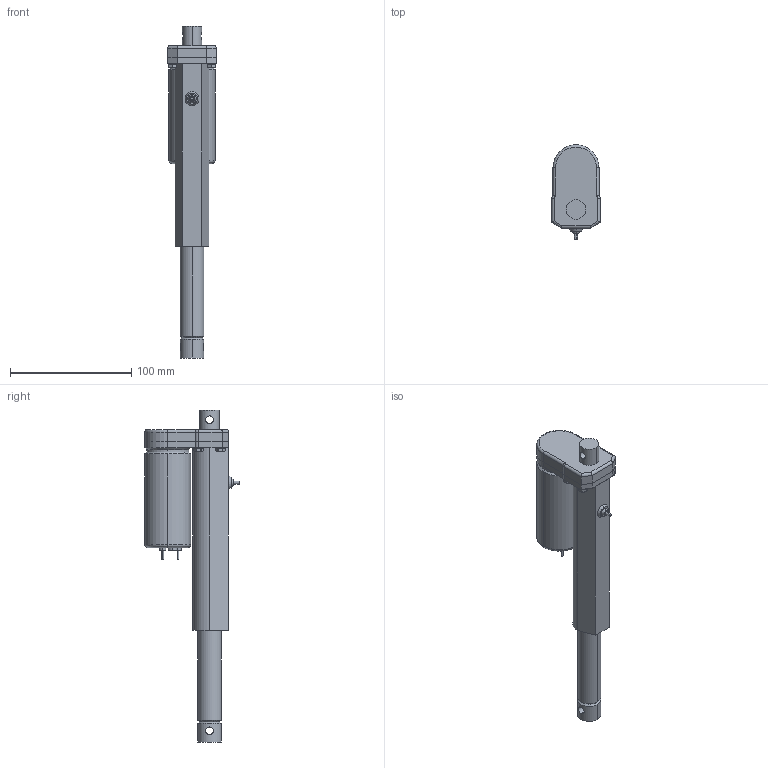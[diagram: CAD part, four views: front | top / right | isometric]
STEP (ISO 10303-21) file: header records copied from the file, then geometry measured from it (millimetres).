
FILE_DESCRIPTION (( 'STEP AP203' ), '1' );
FILE_NAME ('Electrak-LA1-S-03-Tollo.step', '2004-05-12T12:41:16', ( 'Jimmy Richardsson' ), ( 'Cevican AB' ), 'SwSTEP 2.0', 'SolidWorks 2002308', '' );
FILE_SCHEMA (( 'CONFIG_CONTROL_DESIGN' ));
Length unit declared in the file: millimetre
Products named in the file (7): Electrak-LA1-S-03-Tollo; Electrak-LA1-S-House-Tollo_Electrak-LA1-S-House-03-Tollo; Electrak-LA1-S-Rear-Tollo_Electrak-Cover-Tube-Tollo; Electrak-LA1-S-Motor-Tollo_Electrak-Cover-Tube-Tollo; Electrak-LA1-S-Tube-Tollo_Electrak-LA1-S-Tube-03-Tollo; Screw-M6S-M4_Screw-M6S-M4x12H; Electrak-LA1-S-Rod-Tollo_Electrak-LA1-S-Rod-03-Tollo
Assembly tree (9 placements, depth 3):
  Electrak-LA1-S-03-Tollo
    Electrak-LA1-S-Rod-Tollo_Electrak-LA1-S-Rod-03-Tollo
    Electrak-LA1-S-House-Tollo_Electrak-LA1-S-House-03-Tollo
      Electrak-LA1-S-Motor-Tollo_Electrak-Cover-Tube-Tollo
      Electrak-LA1-S-Tube-Tollo_Electrak-LA1-S-Tube-03-Tollo
      Screw-M6S-M4_Screw-M6S-M4x12H  x4
      Electrak-LA1-S-Rear-Tollo_Electrak-Cover-Tube-Tollo
Bounding box: 40 x 78 x 274.2 mm (x, y, z)
Volume: 220167.6 mm3; surface area: 57869.2 mm2
Topology: 8 solids, 8 shells, 239 faces, 545 edges, 342 vertices
Faces by surface type: cylinder 112, plane 78, cone 44, torus 5
Entity records: 5235 total; most frequent: CARTESIAN_POINT 1015, DIRECTION 780, ORIENTED_EDGE 658, EDGE_CURVE 329, AXIS2_PLACEMENT_3D 312, VERTEX_POINT 207, EDGE_LOOP 174, LINE 156
